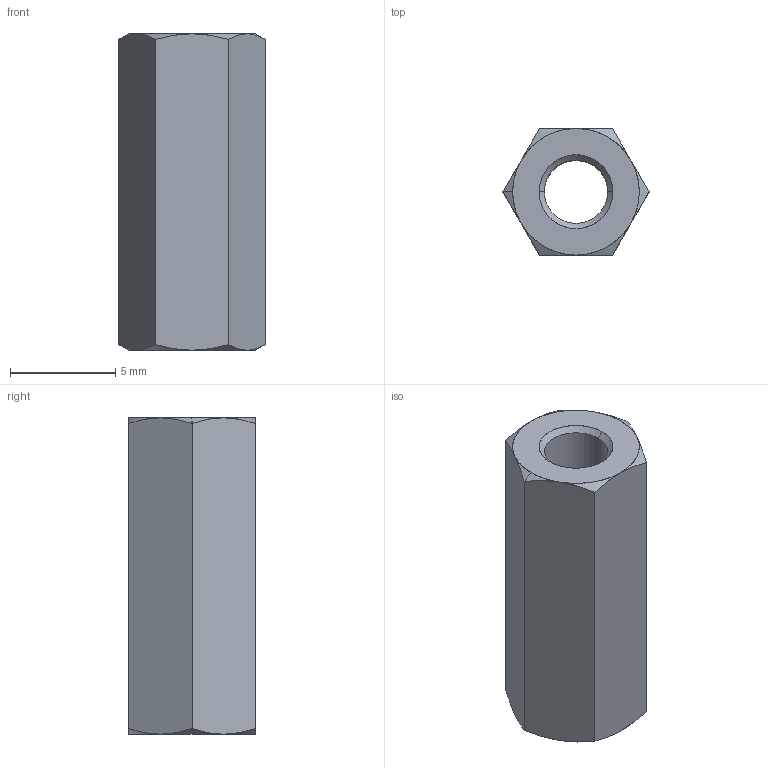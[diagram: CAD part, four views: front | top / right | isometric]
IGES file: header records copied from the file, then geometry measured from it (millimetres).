
Start section: SolidWorks IGES file using analytic representation for surfaces
Global section: file name: C:\Users\ianosborn\Desktop\N0503.NP_v2\N0503.NP_v2_20250227_IGES\N0503.030-015-NP.igs; native system: SolidWorks 2019; preprocessor: SolidWorks 2019; author: IanOsborn; date: 250227.144111; units: millimetre
Bounding box: 6.93 x 6 x 15 mm (x, y, z)
Surface area: 495.8 mm2 (no closed solid volume)
Topology: 0 solids, 0 shells, 28 faces, 286 edges, 286 vertices
Faces by surface type: revolution 20, bspline 8
